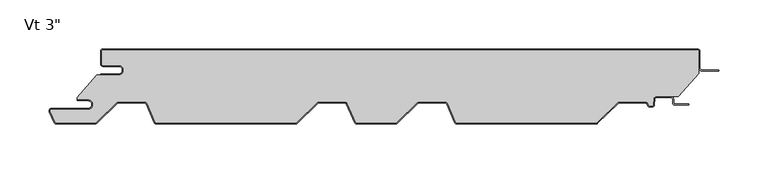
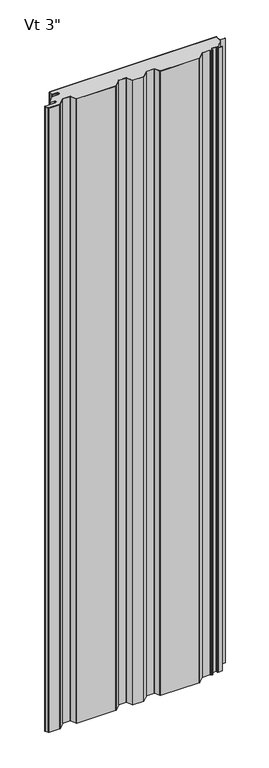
"""IFC4 building model written with IfcOpenShell, lengths in millimetres: plate geometry."""

import ifcopenshell
import ifcopenshell.guid

model = None  # the IFC model being written
_history = None  # IfcOwnerHistory: only IFC2X3 demands one
_inside = {}  # id of a spatial element -> (the spatial element, [elements in it])
_under = {}  # id of a project, library or spatial element -> (it, [spatial elements below it])
_declared = {}  # id of a project -> (the project, [libraries it declares])
_typed = {}  # id of a type object -> (the type object, [elements of that type])
_made_of = {}  # id of a material, layer set ... -> (it, [elements and type objects made of it])


def new_model(schema):
    """Start an empty IFC model of exactly this schema.

    Asked for "IFC4X3", IfcOpenShell would pick the latest addendum, in which some entities
    have other attributes; the version numbers below select the first issue.
    IFC2X3 requires an IfcOwnerHistory on every rooted entity: one is made here for all.
    """
    global model, _history
    if schema == "IFC4X3":
        model = ifcopenshell.file(schema_version=(4, 3, 0, 0))
    else:
        model = ifcopenshell.file(schema=schema)
    _inside.clear()
    _under.clear()
    _declared.clear()
    _typed.clear()
    _made_of.clear()
    _history = None
    if model.schema == "IFC2X3":
        org = make("IfcOrganization", Name="unknown")
        user = make(
            "IfcPersonAndOrganization",
            ThePerson=make("IfcPerson", FamilyName="unknown"),
            TheOrganization=org,
        )
        app = make(
            "IfcApplication",
            ApplicationDeveloper=org,
            Version="unknown",
            ApplicationFullName="unknown",
            ApplicationIdentifier="unknown",
        )
        _history = make(
            "IfcOwnerHistory",
            OwningUser=user,
            OwningApplication=app,
            ChangeAction="ADDED",
            CreationDate=0,
        )
    return model


def make(cls, **values):
    """One entity of the class cls with the attributes given. An attribute that is None is left unset."""
    return model.create_entity(
        cls, **{name: value for name, value in values.items() if value is not None}
    )


def rooted(cls, **values):
    """An entity with a GlobalId (a new one), such as an element, a storey or a relation."""
    return make(cls, GlobalId=ifcopenshell.guid.new(), OwnerHistory=_history, **values)


def si_unit(unit_type, name, prefix=None):
    """IfcSIUnit, for example si_unit("LENGTHUNIT", "METRE", prefix="MILLI")."""
    return make("IfcSIUnit", UnitType=unit_type, Prefix=prefix, Name=name)


def assignment(units):
    """IfcUnitAssignment: the units of a project."""
    return None if units is None else make("IfcUnitAssignment", Units=units)


def point(xyz):
    """IfcCartesianPoint."""
    return None if xyz is None else make("IfcCartesianPoint", Coordinates=xyz)


def direction(xyz):
    """IfcDirection."""
    return None if xyz is None else make("IfcDirection", DirectionRatios=xyz)


def frame(location, z_axis=None, x_axis=None):
    """IfcAxis2Placement3D, a coordinate frame: its origin and axes. An axis left out is left unset."""
    return make(
        "IfcAxis2Placement3D",
        Location=point(location),
        Axis=direction(z_axis),
        RefDirection=direction(x_axis),
    )


def frame_2d(location, x_axis=None):
    """IfcAxis2Placement2D, a coordinate frame in the plane: its origin and x axis."""
    return make(
        "IfcAxis2Placement2D", Location=point(location), RefDirection=direction(x_axis)
    )


def origin():
    """The frame at (0, 0, 0) with its axes left unset."""
    return frame((0.0, 0.0, 0.0))


def origin_with_axes():
    """The frame at (0, 0, 0) with the z axis (0, 0, 1) and the x axis (1, 0, 0) written out."""
    return frame((0.0, 0.0, 0.0), z_axis=(0.0, 0.0, 1.0), x_axis=(1.0, 0.0, 0.0))


def place(relative_to, where):
    """IfcLocalPlacement: puts the frame where relative to a parent placement (None: the world)."""
    return make(
        "IfcLocalPlacement", PlacementRelTo=relative_to, RelativePlacement=where
    )


def context(
    kind, dimensions, precision=None, world=None, true_north=None, identifier=None
):
    """IfcGeometricRepresentationContext, for example the 3D "Model" context."""
    return make(
        "IfcGeometricRepresentationContext",
        ContextIdentifier=identifier,
        ContextType=kind,
        CoordinateSpaceDimension=dimensions,
        Precision=precision,
        WorldCoordinateSystem=world,
        TrueNorth=true_north,
    )


def project(units=None, contexts=None):
    """IfcProject with its units and contexts."""
    return rooted(
        "IfcProject",
        Name="project",
        RepresentationContexts=contexts,
        UnitsInContext=assignment(units),
    )


def spatial(cls, under=None, at=None, **own):
    """A site, building, storey or space (cls), placed at a placement, below another one or the project."""
    s = rooted(cls, ObjectPlacement=at, **own)
    if under is not None:
        _under.setdefault(under.id(), (under, []))[1].append(s)
    return s


def polyline(points):
    """IfcPolyline through the points."""
    return make("IfcPolyline", Points=[point(p) for p in points])


def circle_curve(where, radius):
    """IfcCircle in the frame where."""
    return make("IfcCircle", Position=where, Radius=radius)


def trimmed(basis, trim1, trim2, sense, master):
    """IfcTrimmedCurve: the piece of a basis curve between two trims."""
    return make(
        "IfcTrimmedCurve",
        BasisCurve=basis,
        Trim1=trim1,
        Trim2=trim2,
        SenseAgreement=sense,
        MasterRepresentation=master,
    )


def segment(curve, same_sense, transition):
    """IfcCompositeCurveSegment."""
    return make(
        "IfcCompositeCurveSegment",
        Transition=transition,
        SameSense=same_sense,
        ParentCurve=curve,
    )


def composite_curve(segments, self_intersect=None):
    """IfcCompositeCurve: segments joined end to end."""
    return make("IfcCompositeCurve", Segments=segments, SelfIntersect=self_intersect)


def outline(outer, holes=None, kind="AREA"):
    """IfcArbitraryClosedProfileDef: a profile drawn as a closed curve; with holes, ...WithVoids."""
    if holes is None:
        return make("IfcArbitraryClosedProfileDef", ProfileType=kind, OuterCurve=outer)
    return make(
        "IfcArbitraryProfileDefWithVoids",
        ProfileType=kind,
        OuterCurve=outer,
        InnerCurves=holes,
    )


def extrude(swept, where, along, depth):
    """IfcExtrudedAreaSolid: the profile swept, set in the frame where, extruded along a direction by depth."""
    return make(
        "IfcExtrudedAreaSolid",
        SweptArea=swept,
        Position=where,
        ExtrudedDirection=direction(along),
        Depth=depth,
    )


def shape(context_of_items, identifier, shape_type, items):
    """IfcShapeRepresentation: the items that make up one representation, for example the "Body"."""
    return make(
        "IfcShapeRepresentation",
        ContextOfItems=context_of_items,
        RepresentationIdentifier=identifier,
        RepresentationType=shape_type,
        Items=items,
    )


def source(mapping_origin, context_of_items, identifier, shape_type, items):
    """IfcRepresentationMap: a shape defined once, which mapped items show again and again."""
    return make(
        "IfcRepresentationMap",
        MappingOrigin=mapping_origin,
        MappedRepresentation=shape(context_of_items, identifier, shape_type, items),
    )


def transform(
    local_origin,
    x_axis=None,
    y_axis=None,
    z_axis=None,
    scale=None,
    scale2=None,
    scale3=None,
    uniform=True,
):
    """IfcCartesianTransformationOperator3D, or its non-uniform kind. x_axis, y_axis, z_axis: its Axis1, 2, 3."""
    if uniform:
        return make(
            "IfcCartesianTransformationOperator3D",
            Axis1=direction(x_axis),
            Axis2=direction(y_axis),
            LocalOrigin=point(local_origin),
            Scale=scale,
            Axis3=direction(z_axis),
        )
    return make(
        "IfcCartesianTransformationOperator3DnonUniform",
        Axis1=direction(x_axis),
        Axis2=direction(y_axis),
        LocalOrigin=point(local_origin),
        Scale=scale,
        Axis3=direction(z_axis),
        Scale2=scale2,
        Scale3=scale3,
    )


def mapped(mapping_source, mapping_target):
    """IfcMappedItem: shows the shape of a source again, moved by a transform."""
    return make(
        "IfcMappedItem", MappingSource=mapping_source, MappingTarget=mapping_target
    )


def made_of(thing, what):
    """Note that an element or type object is made of a material, layer set ...; save() writes the relation."""
    if what is not None:
        _made_of.setdefault(what.id(), (what, []))[1].append(thing)
    return thing


def element(
    cls,
    number,
    at=None,
    inside=None,
    cuts=None,
    type_object=None,
    material=None,
    context=None,
    identifier="Body",
    shape_type=None,
    held_by="IfcProductDefinitionShape",
    body=None,
    shapes=None,
    **own,
):
    """One element of the class cls, such as IfcWall. Its Tag is "e" and its number.

    at: its placement. inside: the storey or other place that contains it. cuts: it is an
    opening in that element (IfcRelVoidsElement). A single representation is given by context,
    identifier, shape_type and body (its items); several are given by shapes. held_by: the class
    of the entity that holds the representations. save() writes the other relations.
    """
    e = rooted(cls, Tag="e%d" % number, ObjectPlacement=at, **own)
    if body is not None:
        shapes = [shape(context, identifier, shape_type, body)]
    if shapes is not None:
        e.Representation = make(held_by, Representations=shapes)
    if inside is not None:
        _inside.setdefault(inside.id(), (inside, []))[1].append(e)
    if cuts is not None:
        rooted(
            "IfcRelVoidsElement", RelatingBuildingElement=cuts, RelatedOpeningElement=e
        )
    if type_object is not None:
        _typed.setdefault(type_object.id(), (type_object, []))[1].append(e)
    return made_of(e, material)


def aggregate(whole, parts):
    """IfcRelAggregates: a whole, such as a stair, and the parts it consists of."""
    return rooted("IfcRelAggregates", RelatingObject=whole, RelatedObjects=parts)


def save(model, path):
    """Write the relations noted so far, then the file.

    IfcRelAggregates (storeys below a building ...), IfcRelContainedInSpatialStructure (elements
    in a storey), IfcRelDefinesByType, IfcRelAssociatesMaterial and IfcRelDeclares: one each for
    every whole, place, type object, material and project.
    """
    for whole, parts in _under.values():
        aggregate(whole, parts)
    for where, things in _inside.values():
        rooted(
            "IfcRelContainedInSpatialStructure",
            RelatedElements=things,
            RelatingStructure=where,
        )
    for kind, things in _typed.values():
        rooted("IfcRelDefinesByType", RelatedObjects=things, RelatingType=kind)
    for what, things in _made_of.values():
        rooted("IfcRelAssociatesMaterial", RelatedObjects=things, RelatingMaterial=what)
    for by, libraries in _declared.values():
        rooted("IfcRelDeclares", RelatingContext=by, RelatedDefinitions=libraries)
    model.write(path)


def plate_ee4c8fe3(model_context):
    return source(origin(), model_context, "Body", "SweptSolid", [
        extrude(outline(composite_curve([segment(trimmed(circle_curve(frame_2d((-285.74375, -21.4324412)), 4.96875), [point((-285.74375, -26.4011912))], [point((-285.74375, -16.4636912))], True, "CARTESIAN"), True, "CONTINUOUS"), segment(polyline([(-285.74375, -16.4636912), (-301.61875, -16.4636912)]), True, "CONTINUOUS"), segment(trimmed(circle_curve(frame_2d((-301.61875, -15.0824412)), 1.38125), [point((-301.61875, -16.4636912))], [point((-303.0, -15.0824412))], False, "CARTESIAN"), True, "CONTINUOUS"), segment(polyline([(-303.0, -15.0824412), (-303.0, -2.3824412)]), True, "CONTINUOUS"), segment(trimmed(circle_curve(frame_2d((-301.61875, -2.3824412)), 1.38125), [point((-303.0, -2.3824412))], [point((-301.61875, -1.0011912))], False, "CARTESIAN"), True, "CONTINUOUS"), segment(polyline([(-301.61875, -1.0011912), (301.63125, -1.0011912)]), True, "CONTINUOUS"), segment(trimmed(circle_curve(frame_2d((301.63125, -2.3824412)), 1.38125), [point((301.63125, -1.0011912))], [point((303.0125, -2.3824412))], False, "CARTESIAN"), True, "CONTINUOUS"), segment(polyline([(303.0125, -2.3824412), (303.0125, -24.8719682), (282.1955434, -48.2136912), (259.7683457, -48.2136912)]), True, "CONTINUOUS"), segment(trimmed(circle_curve(frame_2d((259.7683457, -50.8011912)), 2.5875), [point((259.7683457, -48.2136912))], [point((257.1843918, -50.6657719))], True, "CARTESIAN"), True, "CONTINUOUS"), segment(polyline([(257.1843918, -50.6657719), (256.8823155, -56.4297302)]), True, "CONTINUOUS"), segment(trimmed(circle_curve(frame_2d((255.5029585, -56.3574412)), 1.38125), [point((256.8823155, -56.4297302))], [point((255.5029585, -57.7386912))], False, "CARTESIAN"), True, "CONTINUOUS"), segment(polyline([(255.5029585, -57.7386912), (253.1754519, -57.7386912)]), True, "CONTINUOUS"), segment(trimmed(circle_curve(frame_2d((253.1754519, -56.3574412)), 1.38125), [point((253.1754519, -57.7386912))], [point((251.9124516, -56.9166208))], False, "CARTESIAN"), True, "CONTINUOUS"), segment(polyline([(251.9124516, -56.9166208), (251.1640306, -55.2261871)]), True, "CONTINUOUS"), segment(trimmed(circle_curve(frame_2d((248.7980481, -56.2737)), 2.5875), [point((251.1640306, -55.2261871))], [point((248.7980481, -53.6862))], True, "CARTESIAN"), True, "CONTINUOUS"), segment(polyline([(248.7980481, -53.6862), (222.2742003, -53.6862)]), True, "CONTINUOUS"), segment(trimmed(circle_curve(frame_2d((222.2742003, -56.2737)), 2.5875), [point((222.2742003, -53.6862))], [point((220.4745496, -54.4145567))], True, "CARTESIAN"), True, "CONTINUOUS"), segment(polyline([(220.4745496, -54.4145567), (199.4036462, -74.8111912)]), True, "CONTINUOUS"), segment(trimmed(circle_curve(frame_2d((198.4429631, -73.81875)), 1.38125), [point((199.4036462, -74.8111912))], [point((198.4429631, -75.2))], False, "CARTESIAN"), True, "CONTINUOUS"), segment(polyline([(198.4429631, -75.2), (57.7062557, -75.2)]), True, "CONTINUOUS"), segment(trimmed(circle_curve(frame_2d((57.7062557, -73.81875)), 1.38125), [point((57.7062557, -75.2))], [point((56.4432554, -74.3779296))], False, "CARTESIAN"), True, "CONTINUOUS"), segment(polyline([(56.4432554, -74.3779296), (47.9640306, -55.2261871)]), True, "CONTINUOUS"), segment(trimmed(circle_curve(frame_2d((45.5980481, -56.2737)), 2.5875), [point((47.9640306, -55.2261871))], [point((45.5980481, -53.6862))], True, "CARTESIAN"), True, "CONTINUOUS"), segment(polyline([(45.5980481, -53.6862), (19.0742003, -53.6862)]), True, "CONTINUOUS"), segment(trimmed(circle_curve(frame_2d((19.0742003, -56.2737)), 2.5875), [point((19.0742003, -53.6862))], [point((17.2745496, -54.4145567))], True, "CARTESIAN"), True, "CONTINUOUS"), segment(polyline([(17.2745496, -54.4145567), (-3.7963538, -74.8111912)]), True, "CONTINUOUS"), segment(trimmed(circle_curve(frame_2d((-4.7570369, -73.81875)), 1.38125), [point((-3.7963538, -74.8111912))], [point((-4.7570369, -75.2))], False, "CARTESIAN"), True, "CONTINUOUS"), segment(polyline([(-4.7570369, -75.2), (-43.8937443, -75.2)]), True, "CONTINUOUS"), segment(trimmed(circle_curve(frame_2d((-43.8937443, -73.81875)), 1.38125), [point((-43.8937443, -75.2))], [point((-45.1567446, -74.3779296))], False, "CARTESIAN"), True, "CONTINUOUS"), segment(polyline([(-45.1567446, -74.3779296), (-53.6359694, -55.2261871)]), True, "CONTINUOUS"), segment(trimmed(circle_curve(frame_2d((-56.0019519, -56.2737)), 2.5875), [point((-53.6359694, -55.2261871))], [point((-56.0019519, -53.6862))], True, "CARTESIAN"), True, "CONTINUOUS"), segment(polyline([(-56.0019519, -53.6862), (-82.5257997, -53.6862)]), True, "CONTINUOUS"), segment(trimmed(circle_curve(frame_2d((-82.5257997, -56.2737)), 2.5875), [point((-82.5257997, -53.6862))], [point((-84.3254504, -54.4145567))], True, "CARTESIAN"), True, "CONTINUOUS"), segment(polyline([(-84.3254504, -54.4145567), (-105.3963538, -74.8111912)]), True, "CONTINUOUS"), segment(trimmed(circle_curve(frame_2d((-106.3570369, -73.81875)), 1.38125), [point((-105.3963538, -74.8111912))], [point((-106.3570369, -75.2))], False, "CARTESIAN"), True, "CONTINUOUS"), segment(polyline([(-106.3570369, -75.2), (-247.0937443, -75.2)]), True, "CONTINUOUS"), segment(trimmed(circle_curve(frame_2d((-247.0937443, -73.81875)), 1.38125), [point((-247.0937443, -75.2))], [point((-248.3567446, -74.3779296))], False, "CARTESIAN"), True, "CONTINUOUS"), segment(polyline([(-248.3567446, -74.3779296), (-256.8359694, -55.2261871)]), True, "CONTINUOUS"), segment(trimmed(circle_curve(frame_2d((-259.2019519, -56.2737)), 2.5875), [point((-256.8359694, -55.2261871))], [point((-259.2019519, -53.6862))], True, "CARTESIAN"), True, "CONTINUOUS"), segment(polyline([(-259.2019519, -53.6862), (-285.7257997, -53.6862)]), True, "CONTINUOUS"), segment(trimmed(circle_curve(frame_2d((-285.7257997, -56.2737)), 2.5875), [point((-285.7257997, -53.6862))], [point((-287.5254504, -54.4145567))], True, "CARTESIAN"), True, "CONTINUOUS"), segment(polyline([(-287.5254504, -54.4145567), (-308.3876931, -74.6092077)]), True, "CONTINUOUS"), segment(trimmed(circle_curve(frame_2d((-309.8474446, -73.1012)), 2.0988), [point((-308.3876931, -74.6092077))], [point((-309.8474446, -75.2))], False, "CARTESIAN"), True, "CONTINUOUS"), segment(polyline([(-309.8474446, -75.2), (-348.6937443, -75.2)]), True, "CONTINUOUS"), segment(trimmed(circle_curve(frame_2d((-348.6937443, -73.81875)), 1.38125), [point((-348.6937443, -75.2))], [point((-349.9567446, -74.3779296))], False, "CARTESIAN"), True, "CONTINUOUS"), segment(polyline([(-349.9567446, -74.3779296), (-354.8761552, -63.2666208)]), True, "CONTINUOUS"), segment(trimmed(circle_curve(frame_2d((-353.6131549, -62.7074412)), 1.38125), [point((-354.8761552, -63.2666208))], [point((-353.6131549, -61.3261912))], False, "CARTESIAN"), True, "CONTINUOUS"), segment(polyline([(-353.6131549, -61.3261912), (-316.7, -61.3261912)]), True, "CONTINUOUS"), segment(trimmed(circle_curve(frame_2d((-316.7, -56.3574412)), 4.96875), [point((-316.7, -61.3261912))], [point((-316.7, -51.3886912))], True, "CARTESIAN"), True, "CONTINUOUS"), segment(polyline([(-316.7, -51.3886912), (-327.8125, -51.3886912), (-327.8125, -49.233822), (-307.9914112, -26.4011912), (-285.74375, -26.4011912)]), True, "CONTINUOUS")], self_intersect=False)), origin_with_axes(), (0.0, 0.0, 1.0), 2400.0),
        extrude(outline(composite_curve([segment(polyline([(-304.0, -25.4), (-285.74375, -25.4)]), True, "CONTINUOUS"), segment(trimmed(circle_curve(frame_2d((-285.74375, -21.43125)), 3.96875), [point((-285.74375, -25.4))], [point((-285.74375, -17.4625))], True, "CARTESIAN"), True, "CONTINUOUS"), segment(polyline([(-285.74375, -17.4625), (-301.61875, -17.4625)]), True, "CONTINUOUS"), segment(trimmed(circle_curve(frame_2d((-301.61875, -15.08125)), 2.38125), [point((-301.61875, -17.4625))], [point((-304.0, -15.08125))], False, "CARTESIAN"), True, "CONTINUOUS"), segment(polyline([(-304.0, -15.08125), (-304.0, -2.38125)]), True, "CONTINUOUS"), segment(trimmed(circle_curve(frame_2d((-301.61875, -2.38125)), 2.38125), [point((-304.0, -2.38125))], [point((-301.61875, 0.0))], False, "CARTESIAN"), True, "CONTINUOUS"), segment(polyline([(-301.61875, 0.0), (301.63125, 0.0)]), True, "CONTINUOUS"), segment(trimmed(circle_curve(frame_2d((301.63125, -2.38125)), 2.38125), [point((301.63125, 0.0))], [point((304.0125, -2.38125))], False, "CARTESIAN"), True, "CONTINUOUS"), segment(polyline([(304.0125, -2.38125), (304.0125, -19.446875)]), True, "CONTINUOUS"), segment(trimmed(circle_curve(frame_2d((305.6, -19.446875)), 1.5875), [point((304.0125, -19.446875))], [point((305.6, -21.034375))], True, "CARTESIAN"), True, "CONTINUOUS"), segment(polyline([(305.6, -21.034375), (323.0625, -21.034375), (323.0625, -22.034375), (305.6, -22.034375)]), True, "CONTINUOUS"), segment(trimmed(circle_curve(frame_2d((305.6, -19.446875)), 2.5875), [point((305.6, -22.034375))], [point((303.0125, -19.446875))], False, "CARTESIAN"), True, "CONTINUOUS"), segment(polyline([(303.0125, -19.446875), (303.0125, -2.38125)]), True, "CONTINUOUS"), segment(trimmed(circle_curve(frame_2d((301.63125, -2.38125)), 1.38125), [point((303.0125, -2.38125))], [point((301.63125, -1.0))], True, "CARTESIAN"), True, "CONTINUOUS"), segment(polyline([(301.63125, -1.0), (-301.61875, -1.0)]), True, "CONTINUOUS"), segment(trimmed(circle_curve(frame_2d((-301.61875, -2.38125)), 1.38125), [point((-301.61875, -1.0))], [point((-303.0, -2.38125))], True, "CARTESIAN"), True, "CONTINUOUS"), segment(polyline([(-303.0, -2.38125), (-303.0, -15.08125)]), True, "CONTINUOUS"), segment(trimmed(circle_curve(frame_2d((-301.61875, -15.08125)), 1.38125), [point((-303.0, -15.08125))], [point((-301.61875, -16.4625))], True, "CARTESIAN"), True, "CONTINUOUS"), segment(polyline([(-301.61875, -16.4625), (-285.74375, -16.4625)]), True, "CONTINUOUS"), segment(trimmed(circle_curve(frame_2d((-285.74375, -21.43125)), 4.96875), [point((-285.74375, -16.4625))], [point((-285.74375, -26.4))], False, "CARTESIAN"), True, "CONTINUOUS"), segment(polyline([(-285.74375, -26.4), (-304.0, -26.4), (-304.0, -25.4)]), True, "CONTINUOUS")], self_intersect=False)), origin_with_axes(), (0.0, 0.0, 1.0), 2400.0),
        extrude(outline(composite_curve([segment(trimmed(circle_curve(frame_2d((-316.7, -56.3574412)), 3.96875), [point((-316.7, -60.3261912))], [point((-316.7, -52.3886912))], True, "CARTESIAN"), True, "CONTINUOUS"), segment(polyline([(-316.7, -52.3886912), (-327.8125, -52.3886912), (-327.8125, -51.3886912), (-316.7, -51.3886912)]), True, "CONTINUOUS"), segment(trimmed(circle_curve(frame_2d((-316.7, -56.3574412)), 4.96875), [point((-316.7, -51.3886912))], [point((-316.7, -61.3261912))], False, "CARTESIAN"), True, "CONTINUOUS"), segment(polyline([(-316.7, -61.3261912), (-353.6131549, -61.3261912)]), True, "CONTINUOUS"), segment(trimmed(circle_curve(frame_2d((-353.6131549, -62.7074412)), 1.38125), [point((-353.6131549, -61.3261912))], [point((-354.8761552, -63.2666208))], True, "CARTESIAN"), True, "CONTINUOUS"), segment(polyline([(-354.8761552, -63.2666208), (-349.9567446, -74.3779296)]), True, "CONTINUOUS"), segment(trimmed(circle_curve(frame_2d((-348.6937443, -73.81875)), 1.38125), [point((-349.9567446, -74.3779296))], [point((-348.6937443, -75.2))], True, "CARTESIAN"), True, "CONTINUOUS"), segment(polyline([(-348.6937443, -75.2), (-309.8474446, -75.2)]), True, "CONTINUOUS"), segment(trimmed(circle_curve(frame_2d((-309.8474446, -73.1012)), 2.0988), [point((-309.8474446, -75.2))], [point((-308.3876931, -74.6092077))], True, "CARTESIAN"), True, "CONTINUOUS"), segment(polyline([(-308.3876931, -74.6092077), (-287.5254504, -54.4145567)]), True, "CONTINUOUS"), segment(trimmed(circle_curve(frame_2d((-285.7257997, -56.2737)), 2.5875), [point((-287.5254504, -54.4145567))], [point((-285.7257997, -53.6862))], False, "CARTESIAN"), True, "CONTINUOUS"), segment(polyline([(-285.7257997, -53.6862), (-259.2019519, -53.6862)]), True, "CONTINUOUS"), segment(trimmed(circle_curve(frame_2d((-259.2019519, -56.2737)), 2.5875), [point((-259.2019519, -53.6862))], [point((-256.8359694, -55.2261871))], False, "CARTESIAN"), True, "CONTINUOUS"), segment(polyline([(-256.8359694, -55.2261871), (-248.3567446, -74.3779296)]), True, "CONTINUOUS"), segment(trimmed(circle_curve(frame_2d((-247.0937443, -73.81875)), 1.38125), [point((-248.3567446, -74.3779296))], [point((-247.0937443, -75.2))], True, "CARTESIAN"), True, "CONTINUOUS"), segment(polyline([(-247.0937443, -75.2), (-106.3570369, -75.2)]), True, "CONTINUOUS"), segment(trimmed(circle_curve(frame_2d((-106.3570369, -73.81875)), 1.38125), [point((-106.3570369, -75.2))], [point((-105.3963538, -74.8111912))], True, "CARTESIAN"), True, "CONTINUOUS"), segment(polyline([(-105.3963538, -74.8111912), (-84.3254504, -54.4145567)]), True, "CONTINUOUS"), segment(trimmed(circle_curve(frame_2d((-82.5257997, -56.2737)), 2.5875), [point((-84.3254504, -54.4145567))], [point((-82.5257997, -53.6862))], False, "CARTESIAN"), True, "CONTINUOUS"), segment(polyline([(-82.5257997, -53.6862), (-56.0019519, -53.6862)]), True, "CONTINUOUS"), segment(trimmed(circle_curve(frame_2d((-56.0019519, -56.2737)), 2.5875), [point((-56.0019519, -53.6862))], [point((-53.6359694, -55.2261871))], False, "CARTESIAN"), True, "CONTINUOUS"), segment(polyline([(-53.6359694, -55.2261871), (-45.1567446, -74.3779296)]), True, "CONTINUOUS"), segment(trimmed(circle_curve(frame_2d((-43.8937443, -73.81875)), 1.38125), [point((-45.1567446, -74.3779296))], [point((-43.8937443, -75.2))], True, "CARTESIAN"), True, "CONTINUOUS"), segment(polyline([(-43.8937443, -75.2), (-4.7570369, -75.2)]), True, "CONTINUOUS"), segment(trimmed(circle_curve(frame_2d((-4.7570369, -73.81875)), 1.38125), [point((-4.7570369, -75.2))], [point((-3.7963538, -74.8111912))], True, "CARTESIAN"), True, "CONTINUOUS"), segment(polyline([(-3.7963538, -74.8111912), (17.2745496, -54.4145567)]), True, "CONTINUOUS"), segment(trimmed(circle_curve(frame_2d((19.0742003, -56.2737)), 2.5875), [point((17.2745496, -54.4145567))], [point((19.0742003, -53.6862))], False, "CARTESIAN"), True, "CONTINUOUS"), segment(polyline([(19.0742003, -53.6862), (45.5980481, -53.6862)]), True, "CONTINUOUS"), segment(trimmed(circle_curve(frame_2d((45.5980481, -56.2737)), 2.5875), [point((45.5980481, -53.6862))], [point((47.9640306, -55.2261871))], False, "CARTESIAN"), True, "CONTINUOUS"), segment(polyline([(47.9640306, -55.2261871), (56.4432554, -74.3779296)]), True, "CONTINUOUS"), segment(trimmed(circle_curve(frame_2d((57.7062557, -73.81875)), 1.38125), [point((56.4432554, -74.3779296))], [point((57.7062557, -75.2))], True, "CARTESIAN"), True, "CONTINUOUS"), segment(polyline([(57.7062557, -75.2), (198.4429631, -75.2)]), True, "CONTINUOUS"), segment(trimmed(circle_curve(frame_2d((198.4429631, -73.81875)), 1.38125), [point((198.4429631, -75.2))], [point((199.4036462, -74.8111912))], True, "CARTESIAN"), True, "CONTINUOUS"), segment(polyline([(199.4036462, -74.8111912), (220.4745496, -54.4145567)]), True, "CONTINUOUS"), segment(trimmed(circle_curve(frame_2d((222.2742003, -56.2737)), 2.5875), [point((220.4745496, -54.4145567))], [point((222.2742003, -53.6862))], False, "CARTESIAN"), True, "CONTINUOUS"), segment(polyline([(222.2742003, -53.6862), (248.7980481, -53.6862)]), True, "CONTINUOUS"), segment(trimmed(circle_curve(frame_2d((248.7980481, -56.2737)), 2.5875), [point((248.7980481, -53.6862))], [point((251.1640306, -55.2261871))], False, "CARTESIAN"), True, "CONTINUOUS"), segment(polyline([(251.1640306, -55.2261871), (251.9124516, -56.9166208)]), True, "CONTINUOUS"), segment(trimmed(circle_curve(frame_2d((253.1754519, -56.3574412)), 1.38125), [point((251.9124516, -56.9166208))], [point((253.1754519, -57.7386912))], True, "CARTESIAN"), True, "CONTINUOUS"), segment(polyline([(253.1754519, -57.7386912), (255.5029585, -57.7386912)]), True, "CONTINUOUS"), segment(trimmed(circle_curve(frame_2d((255.5029585, -56.3574412)), 1.38125), [point((255.5029585, -57.7386912))], [point((256.8823155, -56.4297302))], True, "CARTESIAN"), True, "CONTINUOUS"), segment(polyline([(256.8823155, -56.4297302), (257.1843918, -50.6657719)]), True, "CONTINUOUS"), segment(trimmed(circle_curve(frame_2d((259.7683457, -50.8011912)), 2.5875), [point((257.1843918, -50.6657719))], [point((259.7683457, -48.2136912))], False, "CARTESIAN"), True, "CONTINUOUS"), segment(polyline([(259.7683457, -48.2136912), (274.64375, -48.2136912)]), True, "CONTINUOUS"), segment(trimmed(circle_curve(frame_2d((274.64375, -50.8011912)), 2.5875), [point((274.64375, -48.2136912))], [point((277.23125, -50.8011912))], False, "CARTESIAN"), True, "CONTINUOUS"), segment(polyline([(277.23125, -50.8011912), (277.23125, -54.3730662)]), True, "CONTINUOUS"), segment(trimmed(circle_curve(frame_2d((278.6125, -54.3730662)), 1.38125), [point((277.23125, -54.3730662))], [point((278.6125, -55.7543162))], True, "CARTESIAN"), True, "CONTINUOUS"), segment(polyline([(278.6125, -55.7543162), (292.9, -55.7543162), (292.9, -56.7543162), (278.6125, -56.7543162)]), True, "CONTINUOUS"), segment(trimmed(circle_curve(frame_2d((278.6125, -54.3730662)), 2.38125), [point((278.6125, -56.7543162))], [point((276.23125, -54.3730662))], False, "CARTESIAN"), True, "CONTINUOUS"), segment(polyline([(276.23125, -54.3730662), (276.23125, -50.8011912)]), True, "CONTINUOUS"), segment(trimmed(circle_curve(frame_2d((274.64375, -50.8011912)), 1.5875), [point((276.23125, -50.8011912))], [point((274.64375, -49.2136912))], True, "CARTESIAN"), True, "CONTINUOUS"), segment(polyline([(274.64375, -49.2136912), (259.7683457, -49.2136912)]), True, "CONTINUOUS"), segment(trimmed(circle_curve(frame_2d((259.7683457, -50.8011912)), 1.5875), [point((259.7683457, -49.2136912))], [point((258.1830213, -50.7181078))], True, "CARTESIAN"), True, "CONTINUOUS"), segment(polyline([(258.1830213, -50.7181078), (257.8809451, -56.4820662)]), True, "CONTINUOUS"), segment(trimmed(circle_curve(frame_2d((255.5029585, -56.3574412)), 2.38125), [point((257.8809451, -56.4820662))], [point((255.5029585, -58.7386912))], False, "CARTESIAN"), True, "CONTINUOUS"), segment(polyline([(255.5029585, -58.7386912), (253.1754519, -58.7386912)]), True, "CONTINUOUS"), segment(trimmed(circle_curve(frame_2d((253.1754519, -56.3574412)), 2.38125), [point((253.1754519, -58.7386912))], [point((250.9980623, -57.3214567))], False, "CARTESIAN"), True, "CONTINUOUS"), segment(polyline([(250.9980623, -57.3214567), (250.2496412, -55.631023)]), True, "CONTINUOUS"), segment(trimmed(circle_curve(frame_2d((248.7980481, -56.2737)), 1.5875), [point((250.2496412, -55.631023))], [point((248.7980481, -54.6862))], True, "CARTESIAN"), True, "CONTINUOUS"), segment(polyline([(248.7980481, -54.6862), (222.2742003, -54.6862)]), True, "CONTINUOUS"), segment(trimmed(circle_curve(frame_2d((222.2742003, -56.2737)), 1.5875), [point((222.2742003, -54.6862))], [point((221.1700668, -55.1330662))], True, "CARTESIAN"), True, "CONTINUOUS"), segment(polyline([(221.1700668, -55.1330662), (200.0991634, -75.5297007)]), True, "CONTINUOUS"), segment(trimmed(circle_curve(frame_2d((198.4429631, -73.81875)), 2.38125), [point((200.0991634, -75.5297007))], [point((198.4429631, -76.2))], False, "CARTESIAN"), True, "CONTINUOUS"), segment(polyline([(198.4429631, -76.2), (57.7062557, -76.2)]), True, "CONTINUOUS"), segment(trimmed(circle_curve(frame_2d((57.7062557, -73.81875)), 2.38125), [point((57.7062557, -76.2))], [point((55.5288661, -74.7827655))], False, "CARTESIAN"), True, "CONTINUOUS"), segment(polyline([(55.5288661, -74.7827655), (47.0496412, -55.631023)]), True, "CONTINUOUS"), segment(trimmed(circle_curve(frame_2d((45.5980481, -56.2737)), 1.5875), [point((47.0496412, -55.631023))], [point((45.5980481, -54.6862))], True, "CARTESIAN"), True, "CONTINUOUS"), segment(polyline([(45.5980481, -54.6862), (19.0742003, -54.6862)]), True, "CONTINUOUS"), segment(trimmed(circle_curve(frame_2d((19.0742003, -56.2737)), 1.5875), [point((19.0742003, -54.6862))], [point((17.9700668, -55.1330662))], True, "CARTESIAN"), True, "CONTINUOUS"), segment(polyline([(17.9700668, -55.1330662), (-3.1008366, -75.5297007)]), True, "CONTINUOUS"), segment(trimmed(circle_curve(frame_2d((-4.7570369, -73.81875)), 2.38125), [point((-3.1008366, -75.5297007))], [point((-4.7570369, -76.2))], False, "CARTESIAN"), True, "CONTINUOUS"), segment(polyline([(-4.7570369, -76.2), (-43.8937443, -76.2)]), True, "CONTINUOUS"), segment(trimmed(circle_curve(frame_2d((-43.8937443, -73.81875)), 2.38125), [point((-43.8937443, -76.2))], [point((-46.0711339, -74.7827655))], False, "CARTESIAN"), True, "CONTINUOUS"), segment(polyline([(-46.0711339, -74.7827655), (-54.5503588, -55.631023)]), True, "CONTINUOUS"), segment(trimmed(circle_curve(frame_2d((-56.0019519, -56.2737)), 1.5875), [point((-54.5503588, -55.631023))], [point((-56.0019519, -54.6862))], True, "CARTESIAN"), True, "CONTINUOUS"), segment(polyline([(-56.0019519, -54.6862), (-82.5257997, -54.6862)]), True, "CONTINUOUS"), segment(trimmed(circle_curve(frame_2d((-82.5257997, -56.2737)), 1.5875), [point((-82.5257997, -54.6862))], [point((-83.6299332, -55.1330662))], True, "CARTESIAN"), True, "CONTINUOUS"), segment(polyline([(-83.6299332, -55.1330662), (-104.7008366, -75.5297007)]), True, "CONTINUOUS"), segment(trimmed(circle_curve(frame_2d((-106.3570369, -73.81875)), 2.38125), [point((-104.7008366, -75.5297007))], [point((-106.3570369, -76.2))], False, "CARTESIAN"), True, "CONTINUOUS"), segment(polyline([(-106.3570369, -76.2), (-247.0937443, -76.2)]), True, "CONTINUOUS"), segment(trimmed(circle_curve(frame_2d((-247.0937443, -73.81875)), 2.38125), [point((-247.0937443, -76.2))], [point((-249.2711339, -74.7827655))], False, "CARTESIAN"), True, "CONTINUOUS"), segment(polyline([(-249.2711339, -74.7827655), (-257.7503588, -55.631023)]), True, "CONTINUOUS"), segment(trimmed(circle_curve(frame_2d((-259.2019519, -56.2737)), 1.5875), [point((-257.7503588, -55.631023))], [point((-259.2019519, -54.6862))], True, "CARTESIAN"), True, "CONTINUOUS"), segment(polyline([(-259.2019519, -54.6862), (-285.7257997, -54.6862)]), True, "CONTINUOUS"), segment(trimmed(circle_curve(frame_2d((-285.7257997, -56.2737)), 1.5875), [point((-285.7257997, -54.6862))], [point((-286.8299332, -55.1330662))], True, "CARTESIAN"), True, "CONTINUOUS"), segment(polyline([(-286.8299332, -55.1330662), (-307.6921759, -75.3277172)]), True, "CONTINUOUS"), segment(trimmed(circle_curve(frame_2d((-309.8474446, -73.1012)), 3.0988), [point((-307.6921759, -75.3277172))], [point((-309.8474446, -76.2))], False, "CARTESIAN"), True, "CONTINUOUS"), segment(polyline([(-309.8474446, -76.2), (-348.6937443, -76.2)]), True, "CONTINUOUS"), segment(trimmed(circle_curve(frame_2d((-348.6937443, -73.81875)), 2.38125), [point((-348.6937443, -76.2))], [point((-350.8711339, -74.7827655))], False, "CARTESIAN"), True, "CONTINUOUS"), segment(polyline([(-350.8711339, -74.7827655), (-355.7905446, -63.6714567)]), True, "CONTINUOUS"), segment(trimmed(circle_curve(frame_2d((-353.6131549, -62.7074412)), 2.38125), [point((-355.7905446, -63.6714567))], [point((-353.6131549, -60.3261912))], False, "CARTESIAN"), True, "CONTINUOUS"), segment(polyline([(-353.6131549, -60.3261912), (-316.7, -60.3261912)]), True, "CONTINUOUS")], self_intersect=False)), origin_with_axes(), (0.0, 0.0, 1.0), 2400.0),
    ])


if __name__ == "__main__":
    model = new_model("IFC4")
    model_context = context("Model", 3, world=origin())
    ifc_project = project(units=[si_unit("LENGTHUNIT", "METRE", prefix="MILLI")], contexts=[model_context])
    site = spatial("IfcSite", under=ifc_project)
    building = spatial("IfcBuilding", under=site)
    placement = place(None, origin())
    plate_shape = plate_ee4c8fe3(model_context)
    element("IfcPlate", 1, ObjectType="KIP-24-DWR-R19-CP-Vt-A : Vt 3\"", at=placement, inside=building, context=model_context, shape_type="MappedRepresentation", body=[
        mapped(plate_shape, transform((0.0, 0.0, 0.0), x_axis=(1.0, 0.0, 0.0), y_axis=(0.0, 1.0, 0.0), z_axis=(0.0, 0.0, 1.0))),
    ])
    save(model, "model.ifc")
